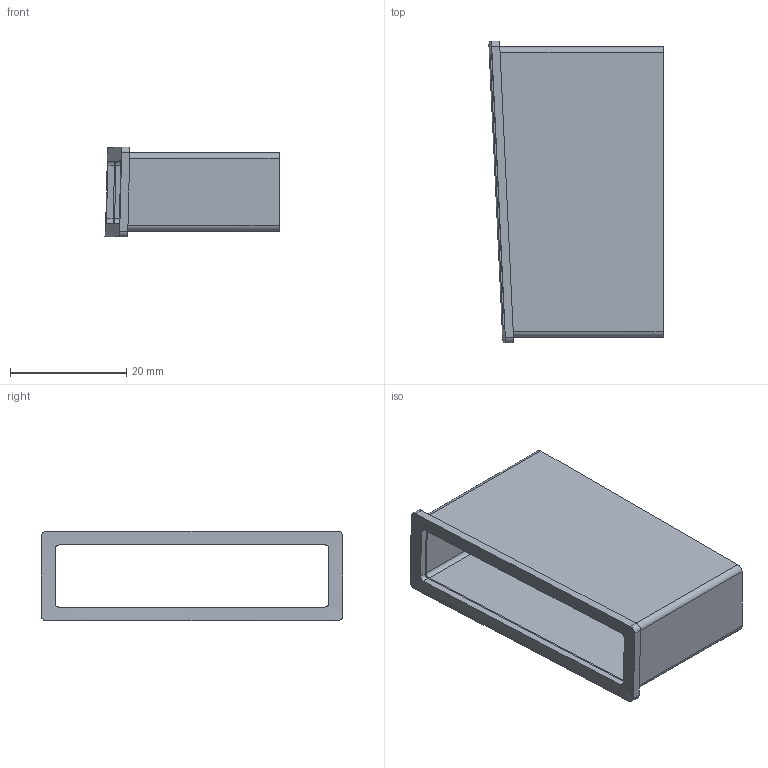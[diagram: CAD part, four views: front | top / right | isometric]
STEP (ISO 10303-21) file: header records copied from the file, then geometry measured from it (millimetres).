
FILE_DESCRIPTION(('Open CASCADE Model'),'2;1');
FILE_NAME('Open CASCADE Shape Model','2026-10-28T00:38:04',('Author'),( 'Open CASCADE'),'Open CASCADE STEP processor 7.8','Open CASCADE 7.8' ,'Unknown');
FILE_SCHEMA(('AUTOMOTIVE_DESIGN { 1 0 10303 214 1 1 1 1 }'));
Length unit declared in the file: millimetre
Products named in the file (1): Open CASCADE STEP translator 7.8 14
Bounding box: 30 x 52 x 15.5 mm (x, y, z)
Volume: 5032.8 mm3; surface area: 7476.5 mm2
Topology: 1 solids, 1 shells, 43 faces, 108 edges, 68 vertices
Faces by surface type: plane 21, cylinder 20, bspline 2
Entity records: 7377 total; most frequent: CARTESIAN_POINT 5491, DIRECTION 244, ORIENTED_EDGE 216, PCURVE 216, DEFINITIONAL_REPRESENTATION 216, B_SPLINE_CURVE_WITH_KNOTS 172, LINE 136, VECTOR 136
